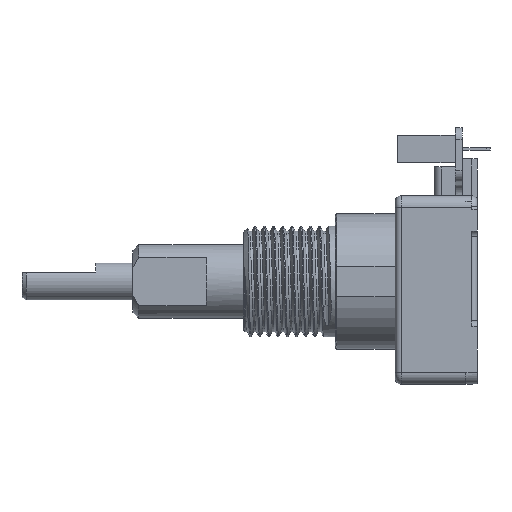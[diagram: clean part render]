
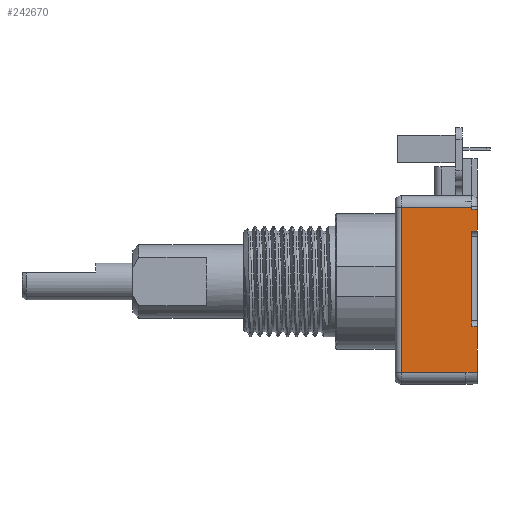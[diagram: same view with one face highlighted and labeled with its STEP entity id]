
A CAD part, left-side view. The second image highlights one B-rep face of the part: STEP entity #242670.
In plain terms, the highlighted planar face has unit normal (-1, 0, 0).
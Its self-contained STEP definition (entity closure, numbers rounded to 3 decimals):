
#22230=CARTESIAN_POINT('',(-6.2,-1.07,-7.87));
#22240=VERTEX_POINT('',#22230);
#134150=CARTESIAN_POINT('',(-6.2,-1.07,6.4));
#134160=VERTEX_POINT('',#134150);
#134190=CARTESIAN_POINT('',(-6.2,-1.07,-7.87));
#134200=DIRECTION('',(0.,0.,1.));
#134210=VECTOR('',#134200,1.);
#134220=LINE('',#134190,#134210);
#134230=EDGE_CURVE('',#22240,#134160,#134220,.T.);
#136860=CARTESIAN_POINT('',(-6.2,-6.67,-7.87));
#136870=VERTEX_POINT('',#136860);
#136920=CARTESIAN_POINT('',(-6.2,-6.67,-7.87));
#136930=DIRECTION('',(0.,1.,0.));
#136940=VECTOR('',#136930,1.);
#136950=LINE('',#136920,#136940);
#136960=EDGE_CURVE('',#136870,#22240,#136950,.T.);
#144580=CARTESIAN_POINT('',(-6.2,-7.17,-3.4));
#144590=VERTEX_POINT('',#144580);
#144620=CARTESIAN_POINT('',(-6.2,-7.17,3.85));
#144630=DIRECTION('',(0.,0.,-1.));
#144640=VECTOR('',#144630,1.);
#144650=LINE('',#144620,#144640);
#144660=CARTESIAN_POINT('',(-6.2,-7.17,3.85));
#144670=VERTEX_POINT('',#144660);
#144680=EDGE_CURVE('',#144670,#144590,#144650,.T.);
#240160=CARTESIAN_POINT('',(-5.2,-6.67,-7.85));
#240170=DIRECTION('',(0.,1.,0.));
#240180=DIRECTION('',(0.,0.,1.));
#240190=AXIS2_PLACEMENT_3D('',#240160,#240170,#240180);
#240200=CIRCLE('',#240190,1.);
#241300=CARTESIAN_POINT('',(-6.2,-7.17,3.85));
#241310=DIRECTION('',(0.,0.,1.));
#241320=VECTOR('',#241310,1.);
#241330=LINE('',#241300,#241320);
#241340=CARTESIAN_POINT('',(-6.2,-7.17,4.35));
#241350=VERTEX_POINT('',#241340);
#241360=EDGE_CURVE('',#144670,#241350,#241330,.T.);
#241760=CARTESIAN_POINT('',(-6.2,-7.17,-3.9));
#241770=VERTEX_POINT('',#241760);
#241800=CARTESIAN_POINT('',(-6.2,-7.17,-3.9));
#241810=DIRECTION('',(0.,0.,1.));
#241820=VECTOR('',#241810,1.);
#241830=LINE('',#241800,#241820);
#241840=EDGE_CURVE('',#241770,#144590,#241830,.T.);
#241910=CARTESIAN_POINT('',(-6.2,-7.67,-7.85));
#241920=DIRECTION('',(-1.,0.,0.));
#241930=DIRECTION('',(0.,0.,1.));
#241940=AXIS2_PLACEMENT_3D('',#241910,#241920,#241930);
#241950=PLANE('',#241940);
#241960=CARTESIAN_POINT('',(-6.2,-7.67,6.225));
#241970=DIRECTION('',(0.,1.,0.));
#241980=VECTOR('',#241970,1.);
#241990=LINE('',#241960,#241980);
#242000=CARTESIAN_POINT('',(-6.2,-7.67,6.225));
#242010=VERTEX_POINT('',#242000);
#242020=CARTESIAN_POINT('',(-6.2,-7.17,6.225));
#242030=VERTEX_POINT('',#242020);
#242040=EDGE_CURVE('',#242010,#242030,#241990,.T.);
#242050=ORIENTED_EDGE('',*,*,#242040,.T.);
#242060=CARTESIAN_POINT('',(-6.2,-7.67,6.225));
#242070=DIRECTION('',(0.,0.,-1.));
#242080=VECTOR('',#242070,1.);
#242090=LINE('',#242060,#242080);
#242100=CARTESIAN_POINT('',(-6.2,-7.67,4.35));
#242110=VERTEX_POINT('',#242100);
#242120=EDGE_CURVE('',#242010,#242110,#242090,.T.);
#242130=ORIENTED_EDGE('',*,*,#242120,.F.);
#242140=CARTESIAN_POINT('',(-6.2,-7.67,4.35));
#242150=DIRECTION('',(0.,1.,0.));
#242160=VECTOR('',#242150,1.);
#242170=LINE('',#242140,#242160);
#242180=EDGE_CURVE('',#242110,#241350,#242170,.T.);
#242190=ORIENTED_EDGE('',*,*,#242180,.F.);
#242200=ORIENTED_EDGE('',*,*,#241360,.T.);
#242210=ORIENTED_EDGE('',*,*,#144680,.F.);
#242220=ORIENTED_EDGE('',*,*,#241840,.T.);
#242230=CARTESIAN_POINT('',(-6.2,-7.67,-3.9));
#242240=DIRECTION('',(0.,1.,0.));
#242250=VECTOR('',#242240,1.);
#242260=LINE('',#242230,#242250);
#242270=CARTESIAN_POINT('',(-6.2,-7.67,-3.9));
#242280=VERTEX_POINT('',#242270);
#242290=EDGE_CURVE('',#242280,#241770,#242260,.T.);
#242300=ORIENTED_EDGE('',*,*,#242290,.T.);
#242310=CARTESIAN_POINT('',(-6.2,-7.67,-3.9));
#242320=DIRECTION('',(0.,0.,-1.));
#242330=VECTOR('',#242320,1.);
#242340=LINE('',#242310,#242330);
#242350=CARTESIAN_POINT('',(-6.2,-7.67,-7.85));
#242360=VERTEX_POINT('',#242350);
#242370=EDGE_CURVE('',#242280,#242360,#242340,.T.);
#242380=ORIENTED_EDGE('',*,*,#242370,.F.);
#242390=CARTESIAN_POINT('',(-6.2,-7.67,-7.85));
#242400=DIRECTION('',(0.,1.,0.));
#242410=VECTOR('',#242400,1.);
#242420=LINE('',#242390,#242410);
#242430=CARTESIAN_POINT('',(-6.2,-6.67,-7.85));
#242440=VERTEX_POINT('',#242430);
#242450=EDGE_CURVE('',#242360,#242440,#242420,.T.);
#242460=ORIENTED_EDGE('',*,*,#242450,.F.);
#242470=EDGE_CURVE('',#136870,#242440,#240200,.T.);
#242480=ORIENTED_EDGE('',*,*,#242470,.T.);
#242490=ORIENTED_EDGE('',*,*,#136960,.F.);
#242500=ORIENTED_EDGE('',*,*,#134230,.F.);
#242510=CARTESIAN_POINT('',(-6.2,-6.67,6.4));
#242520=DIRECTION('',(0.,-1.,0.));
#242530=VECTOR('',#242520,1.);
#242540=LINE('',#242510,#242530);
#242550=CARTESIAN_POINT('',(-6.2,-7.17,6.4));
#242560=VERTEX_POINT('',#242550);
#242570=EDGE_CURVE('',#134160,#242560,#242540,.T.);
#242580=ORIENTED_EDGE('',*,*,#242570,.F.);
#242590=CARTESIAN_POINT('',(-6.2,-7.17,6.225));
#242600=DIRECTION('',(0.,0.,1.));
#242610=VECTOR('',#242600,1.);
#242620=LINE('',#242590,#242610);
#242630=EDGE_CURVE('',#242030,#242560,#242620,.T.);
#242640=ORIENTED_EDGE('',*,*,#242630,.T.);
#242650=EDGE_LOOP('',(#242640,#242580,#242500,#242490,#242480,#242460,
#242380,#242300,#242220,#242210,#242200,#242190,#242130,#242050));
#242660=FACE_OUTER_BOUND('',#242650,.T.);
#242670=ADVANCED_FACE('',(#242660),#241950,.T.);
